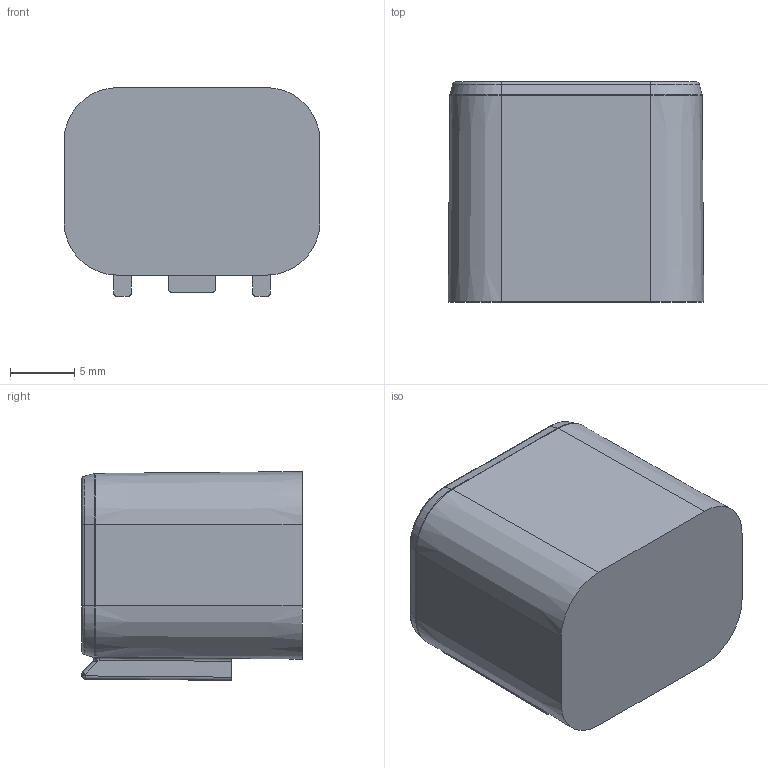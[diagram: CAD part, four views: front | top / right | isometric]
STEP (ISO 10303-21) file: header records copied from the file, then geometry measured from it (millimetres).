
FILE_DESCRIPTION(('CATIA V6 STEP','CAx-IF Rec.Pracs.--- Model Styling and Organization---1.5--- 2016-08-15','CAx-IF Rec.Pracs.---Supplemental Geometry---1.0---2011-11-01','CAx-IF Rec.Pracs.---Representation and Presentation of Product Manufacturing Information (PMI)---4.0---2014-10-13','CAx-IF Rec.Pracs.---User Defined Attributes---1.5---2016-08-15','CAx-IF Rec.Pracs.--- Composite Materials ---3.4---2017-06-13','CAx-IF Rec.Pracs.---Tessellated 3D Geometry---1.0---2015-12-17'),'2;1');
FILE_NAME('\\?\C:\root\24D718E808000000694099B800012758.stp','2025-12-23T00:49:10+00:00',('none'),('none'),'3DEXPERIENCE Platform3DEXPERIENCE R2021x HotFix 10','3DEXPERIENCE Platform STEP AP242 v2','none');
FILE_SCHEMA(('AP242_MANAGED_MODEL_BASED_3D_ENGINEERING_MIM_LF {1 0 10303 442 1 1 4}'));
Products named in the file (1): LV CONN,6LP,INTERFACE
Bounding box: 19.86 x 17.1 x 16.21 mm (x, y, z)
Surface area: 9845.1 mm2
Topology: 4 solids, 4 shells, 1424 faces, 3316 edges, 1892 vertices
Faces by surface type: plane 596, cylinder 315, torus 120, bspline 117, extrusion 108, cone 96, sphere 72
Entity records: 46769 total; most frequent: CARTESIAN_POINT 17659, ORIENTED_EDGE 6488, DIRECTION 4725, EDGE_CURVE 3244, VERTEX_POINT 1892, VECTOR 1854, AXIS2_PLACEMENT_3D 1796, LINE 1746
